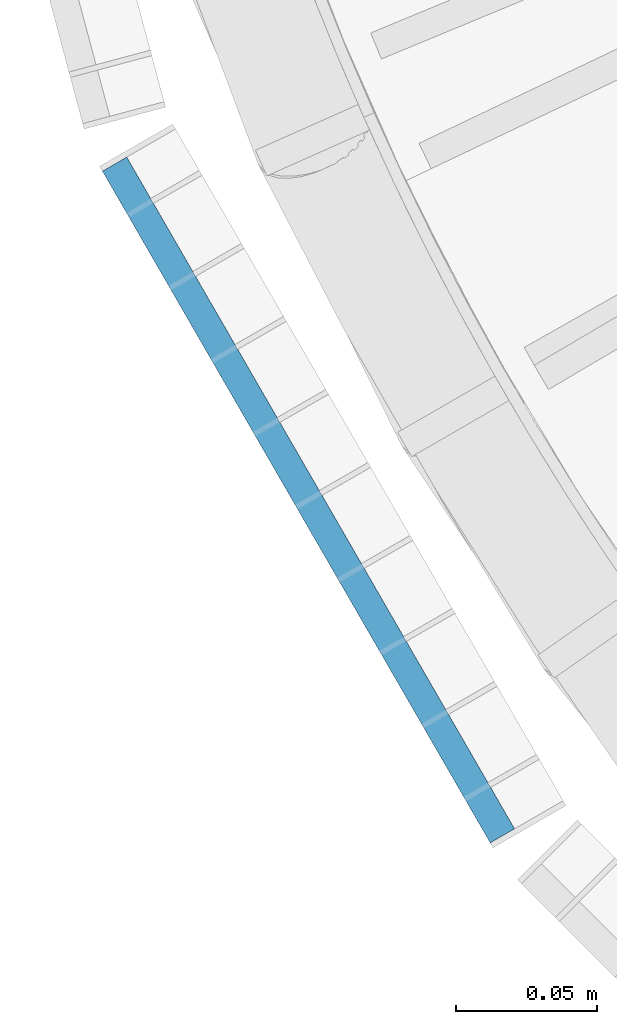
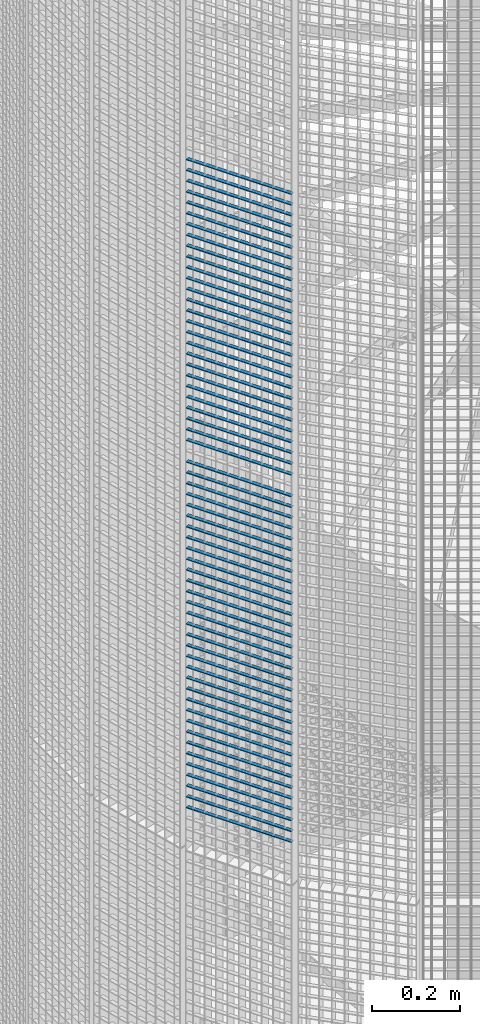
# One storey, part 326 of 1148: 60 beams, 1 element without a shape of its own.
"""IFC2X3 building model written with IfcOpenShell, lengths in millimetres."""

from ifc_helpers import new_model, si_unit, frame, origin_with_axes, origin_2d_with_axis, place, context, subcontext, project, spatial, rectangle, extrude, material, type_object, element, aggregate, save


model = new_model("IFC2X3")

# Units and contexts
model_context = context("Model", 3, precision=1e-05, world=origin_with_axes())
body_context = subcontext(model_context, "Body", "Model", "MODEL_VIEW")
ifc_project = project(units=[si_unit("LENGTHUNIT", "METRE", prefix="MILLI"), si_unit("AREAUNIT", "SQUARE_METRE"), si_unit("VOLUMEUNIT", "CUBIC_METRE"), si_unit("MASSUNIT", "GRAM", prefix="KILO"), si_unit("TIMEUNIT", "SECOND"), si_unit("PLANEANGLEUNIT", "RADIAN"), si_unit("SOLIDANGLEUNIT", "STERADIAN"), si_unit("THERMODYNAMICTEMPERATUREUNIT", "DEGREE_CELSIUS"), si_unit("LUMINOUSINTENSITYUNIT", "LUMEN")], contexts=[model_context])

# Site, building, storey
site_placement = place(None, origin_with_axes())
site = spatial("IfcSite", under=ifc_project, at=site_placement, Name="Undefined", CompositionType="ELEMENT")
building_placement = place(site_placement, origin_with_axes())
building = spatial("IfcBuilding", under=site, at=building_placement, Name="Undefined", CompositionType="ELEMENT")
storey_placement = place(building_placement, origin_with_axes())
storey = spatial("IfcBuildingStorey", under=building, at=storey_placement, Name="Undefined", CompositionType="ELEMENT", Elevation=0.0)

# Assembly, beams
assembly_placement = place(storey_placement, origin_with_axes())
assembly = element("IfcElementAssembly", 1, at=assembly_placement, inside=storey, Name="BORDURE", AssemblyPlace="NOTDEFINED", PredefinedType="NOTDEFINED")
ifc_material = material(Name="STEEL/S235JR")
beam_type = type_object("IfcBeamType", Name="PL2*10", PredefinedType="NOTDEFINED")
beam_1_placement = place(assembly_placement, frame((20704.6960350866, -676.248044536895, 16920.0), z_axis=(-0.866025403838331, -0.499999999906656, 0.0), x_axis=(-0.49999999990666, 0.866025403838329, 0.0)))
beam_1 = element("IfcBeam", 2, at=beam_1_placement, type_object=beam_type, material=ifc_material, Name="ENTRETOISE", context=body_context, shape_type="SweptSolid", body=[
    extrude(rectangle(XDim=2.0, YDim=10.0, at=origin_2d_with_axis()), frame((275.999999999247, 9.09494701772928e-13, 1.53210777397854e-14), z_axis=(-1.0, 0.0, 0.0), x_axis=(0.0, -1.0, 0.0)), (0.0, 0.0, 1.0), 276.0),
])
beam_2_placement = place(assembly_placement, frame((20704.6960350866, -676.248044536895, 16890.0), z_axis=(-0.866025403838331, -0.499999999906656, 0.0), x_axis=(-0.49999999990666, 0.866025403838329, 0.0)))
beam_2 = element("IfcBeam", 3, at=beam_2_placement, type_object=beam_type, material=ifc_material, Name="ENTRETOISE", context=body_context, shape_type="SweptSolid", body=[
    extrude(rectangle(XDim=2.0, YDim=10.0, at=origin_2d_with_axis()), frame((275.999999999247, 9.09494701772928e-13, 1.53210777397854e-14), z_axis=(-1.0, 0.0, 0.0), x_axis=(0.0, -1.0, 0.0)), (0.0, 0.0, 1.0), 276.0),
])
beam_3_placement = place(assembly_placement, frame((20704.6960350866, -676.248044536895, 16860.0), z_axis=(-0.866025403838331, -0.499999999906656, 0.0), x_axis=(-0.49999999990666, 0.866025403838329, 0.0)))
beam_3 = element("IfcBeam", 4, at=beam_3_placement, type_object=beam_type, material=ifc_material, Name="ENTRETOISE", context=body_context, shape_type="SweptSolid", body=[
    extrude(rectangle(XDim=2.0, YDim=10.0, at=origin_2d_with_axis()), frame((275.999999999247, 9.09494701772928e-13, 1.53210777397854e-14), z_axis=(-1.0, 0.0, 0.0), x_axis=(0.0, -1.0, 0.0)), (0.0, 0.0, 1.0), 276.0),
])
beam_4_placement = place(assembly_placement, frame((20704.6960350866, -676.248044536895, 16830.0), z_axis=(-0.866025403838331, -0.499999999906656, 0.0), x_axis=(-0.49999999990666, 0.866025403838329, 0.0)))
beam_4 = element("IfcBeam", 5, at=beam_4_placement, type_object=beam_type, material=ifc_material, Name="ENTRETOISE", context=body_context, shape_type="SweptSolid", body=[
    extrude(rectangle(XDim=2.0, YDim=10.0, at=origin_2d_with_axis()), frame((275.999999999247, 9.09494701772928e-13, 1.53210777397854e-14), z_axis=(-1.0, 0.0, 0.0), x_axis=(0.0, -1.0, 0.0)), (0.0, 0.0, 1.0), 276.0),
])
beam_5_placement = place(assembly_placement, frame((20704.6960350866, -676.248044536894, 16800.0), z_axis=(-0.866025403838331, -0.499999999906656, 0.0), x_axis=(-0.49999999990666, 0.866025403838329, 0.0)))
beam_5 = element("IfcBeam", 6, at=beam_5_placement, type_object=beam_type, material=ifc_material, Name="ENTRETOISE", context=body_context, shape_type="SweptSolid", body=[
    extrude(rectangle(XDim=2.0, YDim=10.0, at=origin_2d_with_axis()), frame((275.999999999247, 9.09494701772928e-13, 1.53210777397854e-14), z_axis=(-1.0, 0.0, 0.0), x_axis=(0.0, -1.0, 0.0)), (0.0, 0.0, 1.0), 276.0),
])
beam_6_placement = place(assembly_placement, frame((20704.6960350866, -676.248044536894, 16770.0), z_axis=(-0.866025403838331, -0.499999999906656, 0.0), x_axis=(-0.49999999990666, 0.866025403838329, 0.0)))
beam_6 = element("IfcBeam", 7, at=beam_6_placement, type_object=beam_type, material=ifc_material, Name="ENTRETOISE", context=body_context, shape_type="SweptSolid", body=[
    extrude(rectangle(XDim=2.0, YDim=10.0, at=origin_2d_with_axis()), frame((275.999999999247, 9.09494701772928e-13, 1.53210777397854e-14), z_axis=(-1.0, 0.0, 0.0), x_axis=(0.0, -1.0, 0.0)), (0.0, 0.0, 1.0), 276.0),
])
beam_7_placement = place(assembly_placement, frame((20704.6960350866, -676.248044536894, 16740.0), z_axis=(-0.866025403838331, -0.499999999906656, 0.0), x_axis=(-0.49999999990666, 0.866025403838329, 0.0)))
beam_7 = element("IfcBeam", 8, at=beam_7_placement, type_object=beam_type, material=ifc_material, Name="ENTRETOISE", context=body_context, shape_type="SweptSolid", body=[
    extrude(rectangle(XDim=2.0, YDim=10.0, at=origin_2d_with_axis()), frame((275.999999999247, 9.09494701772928e-13, 1.53210777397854e-14), z_axis=(-1.0, 0.0, 0.0), x_axis=(0.0, -1.0, 0.0)), (0.0, 0.0, 1.0), 276.0),
])
beam_8_placement = place(assembly_placement, frame((20704.6960350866, -676.248044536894, 16710.0), z_axis=(-0.866025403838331, -0.499999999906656, 0.0), x_axis=(-0.49999999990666, 0.866025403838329, 0.0)))
beam_8 = element("IfcBeam", 9, at=beam_8_placement, type_object=beam_type, material=ifc_material, Name="ENTRETOISE", context=body_context, shape_type="SweptSolid", body=[
    extrude(rectangle(XDim=2.0, YDim=10.0, at=origin_2d_with_axis()), frame((275.999999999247, 9.09494701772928e-13, 1.53210777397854e-14), z_axis=(-1.0, 0.0, 0.0), x_axis=(0.0, -1.0, 0.0)), (0.0, 0.0, 1.0), 276.0),
])
beam_9_placement = place(assembly_placement, frame((20704.6960350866, -676.248044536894, 16680.0), z_axis=(-0.866025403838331, -0.499999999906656, 0.0), x_axis=(-0.49999999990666, 0.866025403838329, 0.0)))
beam_9 = element("IfcBeam", 10, at=beam_9_placement, type_object=beam_type, material=ifc_material, Name="ENTRETOISE", context=body_context, shape_type="SweptSolid", body=[
    extrude(rectangle(XDim=2.0, YDim=10.0, at=origin_2d_with_axis()), frame((275.999999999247, 9.09494701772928e-13, 1.53210777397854e-14), z_axis=(-1.0, 0.0, 0.0), x_axis=(0.0, -1.0, 0.0)), (0.0, 0.0, 1.0), 276.0),
])
beam_10_placement = place(assembly_placement, frame((20704.6960350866, -676.248044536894, 16650.0), z_axis=(-0.866025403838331, -0.499999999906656, 0.0), x_axis=(-0.49999999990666, 0.866025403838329, 0.0)))
beam_10 = element("IfcBeam", 11, at=beam_10_placement, type_object=beam_type, material=ifc_material, Name="ENTRETOISE", context=body_context, shape_type="SweptSolid", body=[
    extrude(rectangle(XDim=2.0, YDim=10.0, at=origin_2d_with_axis()), frame((275.999999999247, 9.09494701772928e-13, 1.53210777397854e-14), z_axis=(-1.0, 0.0, 0.0), x_axis=(0.0, -1.0, 0.0)), (0.0, 0.0, 1.0), 276.0),
])
beam_11_placement = place(assembly_placement, frame((20704.6960350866, -676.248044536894, 16620.0), z_axis=(-0.866025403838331, -0.499999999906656, 0.0), x_axis=(-0.49999999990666, 0.866025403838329, 0.0)))
beam_11 = element("IfcBeam", 12, at=beam_11_placement, type_object=beam_type, material=ifc_material, Name="ENTRETOISE", context=body_context, shape_type="SweptSolid", body=[
    extrude(rectangle(XDim=2.0, YDim=10.0, at=origin_2d_with_axis()), frame((275.999999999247, 9.09494701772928e-13, 1.53210777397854e-14), z_axis=(-1.0, 0.0, 0.0), x_axis=(0.0, -1.0, 0.0)), (0.0, 0.0, 1.0), 276.0),
])
beam_12_placement = place(assembly_placement, frame((20704.6960350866, -676.248044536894, 16590.0), z_axis=(-0.866025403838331, -0.499999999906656, 0.0), x_axis=(-0.49999999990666, 0.866025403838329, 0.0)))
beam_12 = element("IfcBeam", 13, at=beam_12_placement, type_object=beam_type, material=ifc_material, Name="ENTRETOISE", context=body_context, shape_type="SweptSolid", body=[
    extrude(rectangle(XDim=2.0, YDim=10.0, at=origin_2d_with_axis()), frame((275.999999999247, 9.09494701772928e-13, 1.53210777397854e-14), z_axis=(-1.0, 0.0, 0.0), x_axis=(0.0, -1.0, 0.0)), (0.0, 0.0, 1.0), 276.0),
])
beam_13_placement = place(assembly_placement, frame((20704.6960350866, -676.248044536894, 16560.0), z_axis=(-0.866025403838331, -0.499999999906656, 0.0), x_axis=(-0.49999999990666, 0.866025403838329, 0.0)))
beam_13 = element("IfcBeam", 14, at=beam_13_placement, type_object=beam_type, material=ifc_material, Name="ENTRETOISE", context=body_context, shape_type="SweptSolid", body=[
    extrude(rectangle(XDim=2.0, YDim=10.0, at=origin_2d_with_axis()), frame((275.999999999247, 9.09494701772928e-13, 1.53210777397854e-14), z_axis=(-1.0, 0.0, 0.0), x_axis=(0.0, -1.0, 0.0)), (0.0, 0.0, 1.0), 276.0),
])
beam_14_placement = place(assembly_placement, frame((20704.6960350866, -676.248044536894, 16530.0), z_axis=(-0.866025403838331, -0.499999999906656, 0.0), x_axis=(-0.49999999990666, 0.866025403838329, 0.0)))
beam_14 = element("IfcBeam", 15, at=beam_14_placement, type_object=beam_type, material=ifc_material, Name="ENTRETOISE", context=body_context, shape_type="SweptSolid", body=[
    extrude(rectangle(XDim=2.0, YDim=10.0, at=origin_2d_with_axis()), frame((275.999999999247, 9.09494701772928e-13, 1.53210777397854e-14), z_axis=(-1.0, 0.0, 0.0), x_axis=(0.0, -1.0, 0.0)), (0.0, 0.0, 1.0), 276.0),
])
beam_15_placement = place(assembly_placement, frame((20704.6960350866, -676.248044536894, 16500.0), z_axis=(-0.866025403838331, -0.499999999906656, 0.0), x_axis=(-0.49999999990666, 0.866025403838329, 0.0)))
beam_15 = element("IfcBeam", 16, at=beam_15_placement, type_object=beam_type, material=ifc_material, Name="ENTRETOISE", context=body_context, shape_type="SweptSolid", body=[
    extrude(rectangle(XDim=2.0, YDim=10.0, at=origin_2d_with_axis()), frame((275.999999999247, 9.09494701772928e-13, 1.53210777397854e-14), z_axis=(-1.0, 0.0, 0.0), x_axis=(0.0, -1.0, 0.0)), (0.0, 0.0, 1.0), 276.0),
])
beam_16_placement = place(assembly_placement, frame((20704.6960350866, -676.248044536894, 16470.0), z_axis=(-0.866025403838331, -0.499999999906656, 0.0), x_axis=(-0.49999999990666, 0.866025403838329, 0.0)))
beam_16 = element("IfcBeam", 17, at=beam_16_placement, type_object=beam_type, material=ifc_material, Name="ENTRETOISE", context=body_context, shape_type="SweptSolid", body=[
    extrude(rectangle(XDim=2.0, YDim=10.0, at=origin_2d_with_axis()), frame((275.999999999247, 9.09494701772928e-13, 1.53210777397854e-14), z_axis=(-1.0, 0.0, 0.0), x_axis=(0.0, -1.0, 0.0)), (0.0, 0.0, 1.0), 276.0),
])
beam_17_placement = place(assembly_placement, frame((20704.6960350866, -676.248044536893, 16440.0), z_axis=(-0.866025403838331, -0.499999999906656, 0.0), x_axis=(-0.49999999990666, 0.866025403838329, 0.0)))
beam_17 = element("IfcBeam", 18, at=beam_17_placement, type_object=beam_type, material=ifc_material, Name="ENTRETOISE", context=body_context, shape_type="SweptSolid", body=[
    extrude(rectangle(XDim=2.0, YDim=10.0, at=origin_2d_with_axis()), frame((275.999999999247, 9.09494701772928e-13, 1.53210777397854e-14), z_axis=(-1.0, 0.0, 0.0), x_axis=(0.0, -1.0, 0.0)), (0.0, 0.0, 1.0), 276.0),
])
beam_18_placement = place(assembly_placement, frame((20704.6960350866, -676.248044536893, 16410.0), z_axis=(-0.866025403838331, -0.499999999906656, 0.0), x_axis=(-0.49999999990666, 0.866025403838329, 0.0)))
beam_18 = element("IfcBeam", 19, at=beam_18_placement, type_object=beam_type, material=ifc_material, Name="ENTRETOISE", context=body_context, shape_type="SweptSolid", body=[
    extrude(rectangle(XDim=2.0, YDim=10.0, at=origin_2d_with_axis()), frame((275.999999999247, 9.09494701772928e-13, 1.53210777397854e-14), z_axis=(-1.0, 0.0, 0.0), x_axis=(0.0, -1.0, 0.0)), (0.0, 0.0, 1.0), 276.0),
])
beam_19_placement = place(assembly_placement, frame((20704.6960350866, -676.248044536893, 16380.0), z_axis=(-0.866025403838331, -0.499999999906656, 0.0), x_axis=(-0.49999999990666, 0.866025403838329, 0.0)))
beam_19 = element("IfcBeam", 20, at=beam_19_placement, type_object=beam_type, material=ifc_material, Name="ENTRETOISE", context=body_context, shape_type="SweptSolid", body=[
    extrude(rectangle(XDim=2.0, YDim=10.0, at=origin_2d_with_axis()), frame((275.999999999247, 9.09494701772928e-13, 1.53210777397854e-14), z_axis=(-1.0, 0.0, 0.0), x_axis=(0.0, -1.0, 0.0)), (0.0, 0.0, 1.0), 276.0),
])
beam_20_placement = place(assembly_placement, frame((20704.6960350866, -676.248044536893, 16350.0), z_axis=(-0.866025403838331, -0.499999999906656, 0.0), x_axis=(-0.49999999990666, 0.866025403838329, 0.0)))
beam_20 = element("IfcBeam", 21, at=beam_20_placement, type_object=beam_type, material=ifc_material, Name="ENTRETOISE", context=body_context, shape_type="SweptSolid", body=[
    extrude(rectangle(XDim=2.0, YDim=10.0, at=origin_2d_with_axis()), frame((275.999999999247, 9.09494701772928e-13, 1.53210777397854e-14), z_axis=(-1.0, 0.0, 0.0), x_axis=(0.0, -1.0, 0.0)), (0.0, 0.0, 1.0), 276.0),
])
beam_21_placement = place(assembly_placement, frame((20704.6960350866, -676.248044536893, 16320.0), z_axis=(-0.866025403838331, -0.499999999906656, 0.0), x_axis=(-0.49999999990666, 0.866025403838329, 0.0)))
beam_21 = element("IfcBeam", 22, at=beam_21_placement, type_object=beam_type, material=ifc_material, Name="ENTRETOISE", context=body_context, shape_type="SweptSolid", body=[
    extrude(rectangle(XDim=2.0, YDim=10.0, at=origin_2d_with_axis()), frame((275.999999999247, 9.09494701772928e-13, 1.53210777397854e-14), z_axis=(-1.0, 0.0, 0.0), x_axis=(0.0, -1.0, 0.0)), (0.0, 0.0, 1.0), 276.0),
])
beam_22_placement = place(assembly_placement, frame((20704.6960350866, -676.248044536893, 16290.0), z_axis=(-0.866025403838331, -0.499999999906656, 0.0), x_axis=(-0.49999999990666, 0.866025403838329, 0.0)))
beam_22 = element("IfcBeam", 23, at=beam_22_placement, type_object=beam_type, material=ifc_material, Name="ENTRETOISE", context=body_context, shape_type="SweptSolid", body=[
    extrude(rectangle(XDim=2.0, YDim=10.0, at=origin_2d_with_axis()), frame((275.999999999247, 9.09494701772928e-13, 1.53210777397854e-14), z_axis=(-1.0, 0.0, 0.0), x_axis=(0.0, -1.0, 0.0)), (0.0, 0.0, 1.0), 276.0),
])
beam_23_placement = place(assembly_placement, frame((20704.6960350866, -676.248044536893, 16260.0), z_axis=(-0.866025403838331, -0.499999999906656, 0.0), x_axis=(-0.49999999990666, 0.866025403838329, 0.0)))
beam_23 = element("IfcBeam", 24, at=beam_23_placement, type_object=beam_type, material=ifc_material, Name="ENTRETOISE", context=body_context, shape_type="SweptSolid", body=[
    extrude(rectangle(XDim=2.0, YDim=10.0, at=origin_2d_with_axis()), frame((275.999999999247, 9.09494701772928e-13, 1.53210777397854e-14), z_axis=(-1.0, 0.0, 0.0), x_axis=(0.0, -1.0, 0.0)), (0.0, 0.0, 1.0), 276.0),
])
beam_24_placement = place(assembly_placement, frame((20704.6960350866, -676.248044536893, 16230.0), z_axis=(-0.866025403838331, -0.499999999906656, 0.0), x_axis=(-0.49999999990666, 0.866025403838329, 0.0)))
beam_24 = element("IfcBeam", 25, at=beam_24_placement, type_object=beam_type, material=ifc_material, Name="ENTRETOISE", context=body_context, shape_type="SweptSolid", body=[
    extrude(rectangle(XDim=2.0, YDim=10.0, at=origin_2d_with_axis()), frame((275.999999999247, 9.09494701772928e-13, 1.53210777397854e-14), z_axis=(-1.0, 0.0, 0.0), x_axis=(0.0, -1.0, 0.0)), (0.0, 0.0, 1.0), 276.0),
])
beam_25_placement = place(assembly_placement, frame((20704.6960350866, -676.248044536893, 16200.0), z_axis=(-0.866025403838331, -0.499999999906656, 0.0), x_axis=(-0.49999999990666, 0.866025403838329, 0.0)))
beam_25 = element("IfcBeam", 26, at=beam_25_placement, type_object=beam_type, material=ifc_material, Name="ENTRETOISE", context=body_context, shape_type="SweptSolid", body=[
    extrude(rectangle(XDim=2.0, YDim=10.0, at=origin_2d_with_axis()), frame((275.999999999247, 9.09494701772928e-13, 1.53210777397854e-14), z_axis=(-1.0, 0.0, 0.0), x_axis=(0.0, -1.0, 0.0)), (0.0, 0.0, 1.0), 276.0),
])
beam_26_placement = place(assembly_placement, frame((20704.6960350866, -676.248044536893, 16170.0), z_axis=(-0.866025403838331, -0.499999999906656, 0.0), x_axis=(-0.49999999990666, 0.866025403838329, 0.0)))
beam_26 = element("IfcBeam", 27, at=beam_26_placement, type_object=beam_type, material=ifc_material, Name="ENTRETOISE", context=body_context, shape_type="SweptSolid", body=[
    extrude(rectangle(XDim=2.0, YDim=10.0, at=origin_2d_with_axis()), frame((275.999999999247, 9.09494701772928e-13, 1.53210777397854e-14), z_axis=(-1.0, 0.0, 0.0), x_axis=(0.0, -1.0, 0.0)), (0.0, 0.0, 1.0), 276.0),
])
beam_27_placement = place(assembly_placement, frame((20704.6960350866, -676.248044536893, 16140.0), z_axis=(-0.866025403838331, -0.499999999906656, 0.0), x_axis=(-0.49999999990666, 0.866025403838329, 0.0)))
beam_27 = element("IfcBeam", 28, at=beam_27_placement, type_object=beam_type, material=ifc_material, Name="ENTRETOISE", context=body_context, shape_type="SweptSolid", body=[
    extrude(rectangle(XDim=2.0, YDim=10.0, at=origin_2d_with_axis()), frame((275.999999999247, 9.09494701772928e-13, 1.53210777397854e-14), z_axis=(-1.0, 0.0, 0.0), x_axis=(0.0, -1.0, 0.0)), (0.0, 0.0, 1.0), 276.0),
])
beam_28_placement = place(assembly_placement, frame((20704.6960350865, -676.248044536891, 15720.0), z_axis=(-0.866025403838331, -0.499999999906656, 0.0), x_axis=(-0.49999999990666, 0.866025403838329, 0.0)))
beam_28 = element("IfcBeam", 29, at=beam_28_placement, type_object=beam_type, material=ifc_material, Name="ENTRETOISE", context=body_context, shape_type="SweptSolid", body=[
    extrude(rectangle(XDim=2.0, YDim=10.0, at=origin_2d_with_axis()), frame((275.999999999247, 9.09494701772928e-13, 1.53210777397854e-14), z_axis=(-1.0, 0.0, 0.0), x_axis=(0.0, -1.0, 0.0)), (0.0, 0.0, 1.0), 276.0),
])
beam_29_placement = place(assembly_placement, frame((20704.6960350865, -676.248044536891, 15690.0), z_axis=(-0.866025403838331, -0.499999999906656, 0.0), x_axis=(-0.49999999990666, 0.866025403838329, 0.0)))
beam_29 = element("IfcBeam", 30, at=beam_29_placement, type_object=beam_type, material=ifc_material, Name="ENTRETOISE", context=body_context, shape_type="SweptSolid", body=[
    extrude(rectangle(XDim=2.0, YDim=10.0, at=origin_2d_with_axis()), frame((275.999999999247, 9.09494701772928e-13, 1.53210777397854e-14), z_axis=(-1.0, 0.0, 0.0), x_axis=(0.0, -1.0, 0.0)), (0.0, 0.0, 1.0), 276.0),
])
beam_30_placement = place(assembly_placement, frame((20704.6960350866, -676.248044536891, 15750.0), z_axis=(-0.866025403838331, -0.499999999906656, 0.0), x_axis=(-0.49999999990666, 0.866025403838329, 0.0)))
beam_30 = element("IfcBeam", 31, at=beam_30_placement, type_object=beam_type, material=ifc_material, Name="ENTRETOISE", context=body_context, shape_type="SweptSolid", body=[
    extrude(rectangle(XDim=2.0, YDim=10.0, at=origin_2d_with_axis()), frame((275.999999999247, 9.09494701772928e-13, 1.53210777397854e-14), z_axis=(-1.0, 0.0, 0.0), x_axis=(0.0, -1.0, 0.0)), (0.0, 0.0, 1.0), 276.0),
])
beam_31_placement = place(assembly_placement, frame((20704.6960350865, -676.248044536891, 15660.0), z_axis=(-0.866025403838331, -0.499999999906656, 0.0), x_axis=(-0.49999999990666, 0.866025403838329, 0.0)))
beam_31 = element("IfcBeam", 32, at=beam_31_placement, type_object=beam_type, material=ifc_material, Name="ENTRETOISE", context=body_context, shape_type="SweptSolid", body=[
    extrude(rectangle(XDim=2.0, YDim=10.0, at=origin_2d_with_axis()), frame((275.999999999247, 9.09494701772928e-13, 1.53210777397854e-14), z_axis=(-1.0, 0.0, 0.0), x_axis=(0.0, -1.0, 0.0)), (0.0, 0.0, 1.0), 276.0),
])
beam_32_placement = place(assembly_placement, frame((20704.6960350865, -676.248044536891, 15630.0), z_axis=(-0.866025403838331, -0.499999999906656, 0.0), x_axis=(-0.49999999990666, 0.866025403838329, 0.0)))
beam_32 = element("IfcBeam", 33, at=beam_32_placement, type_object=beam_type, material=ifc_material, Name="ENTRETOISE", context=body_context, shape_type="SweptSolid", body=[
    extrude(rectangle(XDim=2.0, YDim=10.0, at=origin_2d_with_axis()), frame((275.999999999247, 9.09494701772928e-13, 1.53210777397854e-14), z_axis=(-1.0, 0.0, 0.0), x_axis=(0.0, -1.0, 0.0)), (0.0, 0.0, 1.0), 276.0),
])
beam_33_placement = place(assembly_placement, frame((20704.6960350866, -676.248044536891, 15780.0), z_axis=(-0.866025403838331, -0.499999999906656, 0.0), x_axis=(-0.49999999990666, 0.866025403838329, 0.0)))
beam_33 = element("IfcBeam", 34, at=beam_33_placement, type_object=beam_type, material=ifc_material, Name="ENTRETOISE", context=body_context, shape_type="SweptSolid", body=[
    extrude(rectangle(XDim=2.0, YDim=10.0, at=origin_2d_with_axis()), frame((275.999999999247, 9.09494701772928e-13, 1.53210777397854e-14), z_axis=(-1.0, 0.0, 0.0), x_axis=(0.0, -1.0, 0.0)), (0.0, 0.0, 1.0), 276.0),
])
beam_34_placement = place(assembly_placement, frame((20704.6960350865, -676.248044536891, 15600.0), z_axis=(-0.866025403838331, -0.499999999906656, 0.0), x_axis=(-0.49999999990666, 0.866025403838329, 0.0)))
beam_34 = element("IfcBeam", 35, at=beam_34_placement, type_object=beam_type, material=ifc_material, Name="ENTRETOISE", context=body_context, shape_type="SweptSolid", body=[
    extrude(rectangle(XDim=2.0, YDim=10.0, at=origin_2d_with_axis()), frame((275.999999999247, 9.09494701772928e-13, 1.53210777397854e-14), z_axis=(-1.0, 0.0, 0.0), x_axis=(0.0, -1.0, 0.0)), (0.0, 0.0, 1.0), 276.0),
])
beam_35_placement = place(assembly_placement, frame((20704.6960350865, -676.248044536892, 15810.0), z_axis=(-0.866025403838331, -0.499999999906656, 0.0), x_axis=(-0.49999999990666, 0.866025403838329, 0.0)))
beam_35 = element("IfcBeam", 36, at=beam_35_placement, type_object=beam_type, material=ifc_material, Name="ENTRETOISE", context=body_context, shape_type="SweptSolid", body=[
    extrude(rectangle(XDim=2.0, YDim=10.0, at=origin_2d_with_axis()), frame((275.999999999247, 9.09494701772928e-13, 1.53210777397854e-14), z_axis=(-1.0, 0.0, 0.0), x_axis=(0.0, -1.0, 0.0)), (0.0, 0.0, 1.0), 276.0),
])
beam_36_placement = place(assembly_placement, frame((20704.6960350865, -676.248044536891, 15570.0), z_axis=(-0.866025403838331, -0.499999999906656, 0.0), x_axis=(-0.49999999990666, 0.866025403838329, 0.0)))
beam_36 = element("IfcBeam", 37, at=beam_36_placement, type_object=beam_type, material=ifc_material, Name="ENTRETOISE", context=body_context, shape_type="SweptSolid", body=[
    extrude(rectangle(XDim=2.0, YDim=10.0, at=origin_2d_with_axis()), frame((275.999999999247, 9.09494701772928e-13, 1.53210777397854e-14), z_axis=(-1.0, 0.0, 0.0), x_axis=(0.0, -1.0, 0.0)), (0.0, 0.0, 1.0), 276.0),
])
beam_37_placement = place(assembly_placement, frame((20704.6960350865, -676.248044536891, 15540.0), z_axis=(-0.866025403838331, -0.499999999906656, 0.0), x_axis=(-0.49999999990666, 0.866025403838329, 0.0)))
beam_37 = element("IfcBeam", 38, at=beam_37_placement, type_object=beam_type, material=ifc_material, Name="ENTRETOISE", context=body_context, shape_type="SweptSolid", body=[
    extrude(rectangle(XDim=2.0, YDim=10.0, at=origin_2d_with_axis()), frame((275.999999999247, 9.09494701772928e-13, 1.53210777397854e-14), z_axis=(-1.0, 0.0, 0.0), x_axis=(0.0, -1.0, 0.0)), (0.0, 0.0, 1.0), 276.0),
])
beam_38_placement = place(assembly_placement, frame((20704.6960350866, -676.248044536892, 15840.0), z_axis=(-0.866025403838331, -0.499999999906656, 0.0), x_axis=(-0.49999999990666, 0.866025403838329, 0.0)))
beam_38 = element("IfcBeam", 39, at=beam_38_placement, type_object=beam_type, material=ifc_material, Name="ENTRETOISE", context=body_context, shape_type="SweptSolid", body=[
    extrude(rectangle(XDim=2.0, YDim=10.0, at=origin_2d_with_axis()), frame((275.999999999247, 9.09494701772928e-13, 1.53210777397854e-14), z_axis=(-1.0, 0.0, 0.0), x_axis=(0.0, -1.0, 0.0)), (0.0, 0.0, 1.0), 276.0),
])
beam_39_placement = place(assembly_placement, frame((20704.6960350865, -676.248044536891, 15510.0), z_axis=(-0.866025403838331, -0.499999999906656, 0.0), x_axis=(-0.49999999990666, 0.866025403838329, 0.0)))
beam_39 = element("IfcBeam", 40, at=beam_39_placement, type_object=beam_type, material=ifc_material, Name="ENTRETOISE", context=body_context, shape_type="SweptSolid", body=[
    extrude(rectangle(XDim=2.0, YDim=10.0, at=origin_2d_with_axis()), frame((275.999999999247, 9.09494701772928e-13, 1.53210777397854e-14), z_axis=(-1.0, 0.0, 0.0), x_axis=(0.0, -1.0, 0.0)), (0.0, 0.0, 1.0), 276.0),
])
beam_40_placement = place(assembly_placement, frame((20704.6960350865, -676.248044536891, 15480.0), z_axis=(-0.866025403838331, -0.499999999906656, 0.0), x_axis=(-0.49999999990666, 0.866025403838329, 0.0)))
beam_40 = element("IfcBeam", 41, at=beam_40_placement, type_object=beam_type, material=ifc_material, Name="ENTRETOISE", context=body_context, shape_type="SweptSolid", body=[
    extrude(rectangle(XDim=2.0, YDim=10.0, at=origin_2d_with_axis()), frame((275.999999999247, 9.09494701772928e-13, 1.53210777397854e-14), z_axis=(-1.0, 0.0, 0.0), x_axis=(0.0, -1.0, 0.0)), (0.0, 0.0, 1.0), 276.0),
])
beam_41_placement = place(assembly_placement, frame((20704.6960350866, -676.248044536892, 15870.0), z_axis=(-0.866025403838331, -0.499999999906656, 0.0), x_axis=(-0.49999999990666, 0.866025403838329, 0.0)))
beam_41 = element("IfcBeam", 42, at=beam_41_placement, type_object=beam_type, material=ifc_material, Name="ENTRETOISE", context=body_context, shape_type="SweptSolid", body=[
    extrude(rectangle(XDim=2.0, YDim=10.0, at=origin_2d_with_axis()), frame((275.999999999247, 9.09494701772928e-13, 1.53210777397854e-14), z_axis=(-1.0, 0.0, 0.0), x_axis=(0.0, -1.0, 0.0)), (0.0, 0.0, 1.0), 276.0),
])
beam_42_placement = place(assembly_placement, frame((20704.6960350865, -676.248044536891, 15450.0), z_axis=(-0.866025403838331, -0.499999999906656, 0.0), x_axis=(-0.49999999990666, 0.866025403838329, 0.0)))
beam_42 = element("IfcBeam", 43, at=beam_42_placement, type_object=beam_type, material=ifc_material, Name="ENTRETOISE", context=body_context, shape_type="SweptSolid", body=[
    extrude(rectangle(XDim=2.0, YDim=10.0, at=origin_2d_with_axis()), frame((275.999999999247, 9.09494701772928e-13, 1.53210777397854e-14), z_axis=(-1.0, 0.0, 0.0), x_axis=(0.0, -1.0, 0.0)), (0.0, 0.0, 1.0), 276.0),
])
beam_43_placement = place(assembly_placement, frame((20704.6960350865, -676.24804453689, 15420.0), z_axis=(-0.866025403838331, -0.499999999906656, 0.0), x_axis=(-0.49999999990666, 0.866025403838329, 0.0)))
beam_43 = element("IfcBeam", 44, at=beam_43_placement, type_object=beam_type, material=ifc_material, Name="ENTRETOISE", context=body_context, shape_type="SweptSolid", body=[
    extrude(rectangle(XDim=2.0, YDim=10.0, at=origin_2d_with_axis()), frame((275.999999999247, 9.09494701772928e-13, 1.53210777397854e-14), z_axis=(-1.0, 0.0, 0.0), x_axis=(0.0, -1.0, 0.0)), (0.0, 0.0, 1.0), 276.0),
])
beam_44_placement = place(assembly_placement, frame((20704.6960350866, -676.248044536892, 15900.0), z_axis=(-0.866025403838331, -0.499999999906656, 0.0), x_axis=(-0.49999999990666, 0.866025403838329, 0.0)))
beam_44 = element("IfcBeam", 45, at=beam_44_placement, type_object=beam_type, material=ifc_material, Name="ENTRETOISE", context=body_context, shape_type="SweptSolid", body=[
    extrude(rectangle(XDim=2.0, YDim=10.0, at=origin_2d_with_axis()), frame((275.999999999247, 9.09494701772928e-13, 1.53210777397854e-14), z_axis=(-1.0, 0.0, 0.0), x_axis=(0.0, -1.0, 0.0)), (0.0, 0.0, 1.0), 276.0),
])
beam_45_placement = place(assembly_placement, frame((20704.6960350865, -676.24804453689, 15390.0), z_axis=(-0.866025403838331, -0.499999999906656, 0.0), x_axis=(-0.49999999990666, 0.866025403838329, 0.0)))
beam_45 = element("IfcBeam", 46, at=beam_45_placement, type_object=beam_type, material=ifc_material, Name="ENTRETOISE", context=body_context, shape_type="SweptSolid", body=[
    extrude(rectangle(XDim=2.0, YDim=10.0, at=origin_2d_with_axis()), frame((275.999999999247, 9.09494701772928e-13, 1.53210777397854e-14), z_axis=(-1.0, 0.0, 0.0), x_axis=(0.0, -1.0, 0.0)), (0.0, 0.0, 1.0), 276.0),
])
beam_46_placement = place(assembly_placement, frame((20704.6960350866, -676.248044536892, 15930.0), z_axis=(-0.866025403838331, -0.499999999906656, 0.0), x_axis=(-0.49999999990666, 0.866025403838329, 0.0)))
beam_46 = element("IfcBeam", 47, at=beam_46_placement, type_object=beam_type, material=ifc_material, Name="ENTRETOISE", context=body_context, shape_type="SweptSolid", body=[
    extrude(rectangle(XDim=2.0, YDim=10.0, at=origin_2d_with_axis()), frame((275.999999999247, 9.09494701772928e-13, 1.53210777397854e-14), z_axis=(-1.0, 0.0, 0.0), x_axis=(0.0, -1.0, 0.0)), (0.0, 0.0, 1.0), 276.0),
])
beam_47_placement = place(assembly_placement, frame((20704.6960350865, -676.24804453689, 15360.0), z_axis=(-0.866025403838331, -0.499999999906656, 0.0), x_axis=(-0.49999999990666, 0.866025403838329, 0.0)))
beam_47 = element("IfcBeam", 48, at=beam_47_placement, type_object=beam_type, material=ifc_material, Name="ENTRETOISE", context=body_context, shape_type="SweptSolid", body=[
    extrude(rectangle(XDim=2.0, YDim=10.0, at=origin_2d_with_axis()), frame((275.999999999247, 9.09494701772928e-13, 1.53210777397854e-14), z_axis=(-1.0, 0.0, 0.0), x_axis=(0.0, -1.0, 0.0)), (0.0, 0.0, 1.0), 276.0),
])
beam_48_placement = place(assembly_placement, frame((20704.6960350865, -676.24804453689, 15330.0), z_axis=(-0.866025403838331, -0.499999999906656, 0.0), x_axis=(-0.49999999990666, 0.866025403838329, 0.0)))
beam_48 = element("IfcBeam", 49, at=beam_48_placement, type_object=beam_type, material=ifc_material, Name="ENTRETOISE", context=body_context, shape_type="SweptSolid", body=[
    extrude(rectangle(XDim=2.0, YDim=10.0, at=origin_2d_with_axis()), frame((275.999999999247, 9.09494701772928e-13, 1.53210777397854e-14), z_axis=(-1.0, 0.0, 0.0), x_axis=(0.0, -1.0, 0.0)), (0.0, 0.0, 1.0), 276.0),
])
beam_49_placement = place(assembly_placement, frame((20704.6960350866, -676.248044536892, 15960.0), z_axis=(-0.866025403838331, -0.499999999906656, 0.0), x_axis=(-0.49999999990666, 0.866025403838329, 0.0)))
beam_49 = element("IfcBeam", 50, at=beam_49_placement, type_object=beam_type, material=ifc_material, Name="ENTRETOISE", context=body_context, shape_type="SweptSolid", body=[
    extrude(rectangle(XDim=2.0, YDim=10.0, at=origin_2d_with_axis()), frame((275.999999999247, 9.09494701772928e-13, 1.53210777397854e-14), z_axis=(-1.0, 0.0, 0.0), x_axis=(0.0, -1.0, 0.0)), (0.0, 0.0, 1.0), 276.0),
])
beam_50_placement = place(assembly_placement, frame((20704.6960350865, -676.24804453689, 15300.0), z_axis=(-0.866025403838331, -0.499999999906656, 0.0), x_axis=(-0.49999999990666, 0.866025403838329, 0.0)))
beam_50 = element("IfcBeam", 51, at=beam_50_placement, type_object=beam_type, material=ifc_material, Name="ENTRETOISE", context=body_context, shape_type="SweptSolid", body=[
    extrude(rectangle(XDim=2.0, YDim=10.0, at=origin_2d_with_axis()), frame((275.999999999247, 9.09494701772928e-13, 1.53210777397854e-14), z_axis=(-1.0, 0.0, 0.0), x_axis=(0.0, -1.0, 0.0)), (0.0, 0.0, 1.0), 276.0),
])
beam_51_placement = place(assembly_placement, frame((20704.6960350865, -676.24804453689, 15270.0), z_axis=(-0.866025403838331, -0.499999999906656, 0.0), x_axis=(-0.49999999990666, 0.866025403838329, 0.0)))
beam_51 = element("IfcBeam", 52, at=beam_51_placement, type_object=beam_type, material=ifc_material, Name="ENTRETOISE", context=body_context, shape_type="SweptSolid", body=[
    extrude(rectangle(XDim=2.0, YDim=10.0, at=origin_2d_with_axis()), frame((275.999999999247, 9.09494701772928e-13, 1.53210777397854e-14), z_axis=(-1.0, 0.0, 0.0), x_axis=(0.0, -1.0, 0.0)), (0.0, 0.0, 1.0), 276.0),
])
beam_52_placement = place(assembly_placement, frame((20704.6960350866, -676.248044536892, 15990.0), z_axis=(-0.866025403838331, -0.499999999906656, 0.0), x_axis=(-0.49999999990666, 0.866025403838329, 0.0)))
beam_52 = element("IfcBeam", 53, at=beam_52_placement, type_object=beam_type, material=ifc_material, Name="ENTRETOISE", context=body_context, shape_type="SweptSolid", body=[
    extrude(rectangle(XDim=2.0, YDim=10.0, at=origin_2d_with_axis()), frame((275.999999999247, 9.09494701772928e-13, 1.53210777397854e-14), z_axis=(-1.0, 0.0, 0.0), x_axis=(0.0, -1.0, 0.0)), (0.0, 0.0, 1.0), 276.0),
])
beam_53_placement = place(assembly_placement, frame((20704.6960350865, -676.24804453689, 15240.0), z_axis=(-0.866025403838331, -0.499999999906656, 0.0), x_axis=(-0.49999999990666, 0.866025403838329, 0.0)))
beam_53 = element("IfcBeam", 54, at=beam_53_placement, type_object=beam_type, material=ifc_material, Name="ENTRETOISE", context=body_context, shape_type="SweptSolid", body=[
    extrude(rectangle(XDim=2.0, YDim=10.0, at=origin_2d_with_axis()), frame((275.999999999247, 9.09494701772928e-13, 1.53210777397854e-14), z_axis=(-1.0, 0.0, 0.0), x_axis=(0.0, -1.0, 0.0)), (0.0, 0.0, 1.0), 276.0),
])
beam_54_placement = place(assembly_placement, frame((20704.6960350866, -676.248044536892, 16020.0), z_axis=(-0.866025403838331, -0.499999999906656, 0.0), x_axis=(-0.49999999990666, 0.866025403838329, 0.0)))
beam_54 = element("IfcBeam", 55, at=beam_54_placement, type_object=beam_type, material=ifc_material, Name="ENTRETOISE", context=body_context, shape_type="SweptSolid", body=[
    extrude(rectangle(XDim=2.0, YDim=10.0, at=origin_2d_with_axis()), frame((275.999999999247, 9.09494701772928e-13, 1.53210777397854e-14), z_axis=(-1.0, 0.0, 0.0), x_axis=(0.0, -1.0, 0.0)), (0.0, 0.0, 1.0), 276.0),
])
beam_55_placement = place(assembly_placement, frame((20704.6960350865, -676.24804453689, 15210.0), z_axis=(-0.866025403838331, -0.499999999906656, 0.0), x_axis=(-0.49999999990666, 0.866025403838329, 0.0)))
beam_55 = element("IfcBeam", 56, at=beam_55_placement, type_object=beam_type, material=ifc_material, Name="ENTRETOISE", context=body_context, shape_type="SweptSolid", body=[
    extrude(rectangle(XDim=2.0, YDim=10.0, at=origin_2d_with_axis()), frame((275.999999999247, 9.09494701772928e-13, 1.53210777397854e-14), z_axis=(-1.0, 0.0, 0.0), x_axis=(0.0, -1.0, 0.0)), (0.0, 0.0, 1.0), 276.0),
])
beam_56_placement = place(assembly_placement, frame((20704.6960350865, -676.24804453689, 15180.0), z_axis=(-0.866025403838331, -0.499999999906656, 0.0), x_axis=(-0.49999999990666, 0.866025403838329, 0.0)))
beam_56 = element("IfcBeam", 57, at=beam_56_placement, type_object=beam_type, material=ifc_material, Name="ENTRETOISE", context=body_context, shape_type="SweptSolid", body=[
    extrude(rectangle(XDim=2.0, YDim=10.0, at=origin_2d_with_axis()), frame((275.999999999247, 9.09494701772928e-13, 1.53210777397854e-14), z_axis=(-1.0, 0.0, 0.0), x_axis=(0.0, -1.0, 0.0)), (0.0, 0.0, 1.0), 276.0),
])
beam_57_placement = place(assembly_placement, frame((20704.6960350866, -676.248044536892, 16050.0), z_axis=(-0.866025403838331, -0.499999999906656, 0.0), x_axis=(-0.49999999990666, 0.866025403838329, 0.0)))
beam_57 = element("IfcBeam", 58, at=beam_57_placement, type_object=beam_type, material=ifc_material, Name="ENTRETOISE", context=body_context, shape_type="SweptSolid", body=[
    extrude(rectangle(XDim=2.0, YDim=10.0, at=origin_2d_with_axis()), frame((275.999999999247, 9.09494701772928e-13, 1.53210777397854e-14), z_axis=(-1.0, 0.0, 0.0), x_axis=(0.0, -1.0, 0.0)), (0.0, 0.0, 1.0), 276.0),
])
beam_58_placement = place(assembly_placement, frame((20704.6960350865, -676.24804453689, 15150.0), z_axis=(-0.866025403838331, -0.499999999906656, 0.0), x_axis=(-0.49999999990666, 0.866025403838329, 0.0)))
beam_58 = element("IfcBeam", 59, at=beam_58_placement, type_object=beam_type, material=ifc_material, Name="ENTRETOISE", context=body_context, shape_type="SweptSolid", body=[
    extrude(rectangle(XDim=2.0, YDim=10.0, at=origin_2d_with_axis()), frame((275.999999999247, 9.09494701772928e-13, 1.53210777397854e-14), z_axis=(-1.0, 0.0, 0.0), x_axis=(0.0, -1.0, 0.0)), (0.0, 0.0, 1.0), 276.0),
])
beam_59_placement = place(assembly_placement, frame((20704.6960350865, -676.24804453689, 15120.0), z_axis=(-0.866025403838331, -0.499999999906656, 0.0), x_axis=(-0.49999999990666, 0.866025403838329, 0.0)))
beam_59 = element("IfcBeam", 60, at=beam_59_placement, type_object=beam_type, material=ifc_material, Name="ENTRETOISE", context=body_context, shape_type="SweptSolid", body=[
    extrude(rectangle(XDim=2.0, YDim=10.0, at=origin_2d_with_axis()), frame((275.999999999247, 9.09494701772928e-13, 1.53210777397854e-14), z_axis=(-1.0, 0.0, 0.0), x_axis=(0.0, -1.0, 0.0)), (0.0, 0.0, 1.0), 276.0),
])
beam_60_placement = place(assembly_placement, frame((20704.6960350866, -676.248044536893, 16080.0), z_axis=(-0.866025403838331, -0.499999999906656, 0.0), x_axis=(-0.49999999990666, 0.866025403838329, 0.0)))
beam_60 = element("IfcBeam", 61, at=beam_60_placement, type_object=beam_type, material=ifc_material, Name="ENTRETOISE", context=body_context, shape_type="SweptSolid", body=[
    extrude(rectangle(XDim=2.0, YDim=10.0, at=origin_2d_with_axis()), frame((275.999999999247, 9.09494701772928e-13, 1.53210777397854e-14), z_axis=(-1.0, 0.0, 0.0), x_axis=(0.0, -1.0, 0.0)), (0.0, 0.0, 1.0), 276.0),
])
aggregate(assembly, [beam_1, beam_2, beam_3, beam_4, beam_5, beam_6, beam_7, beam_8, beam_9, beam_10, beam_11, beam_12, beam_13, beam_14, beam_15, beam_16, beam_17, beam_18, beam_19, beam_20, beam_21, beam_22, beam_23, beam_24, beam_25, beam_26, beam_27, beam_28, beam_29, beam_30, beam_31, beam_32, beam_33, beam_34, beam_35, beam_36, beam_37, beam_38, beam_39, beam_40, beam_41, beam_42, beam_43, beam_44, beam_45, beam_46, beam_47, beam_48, beam_49, beam_50, beam_51, beam_52, beam_53, beam_54, beam_55, beam_56, beam_57, beam_58, beam_59, beam_60])

save(model, "model.ifc")
